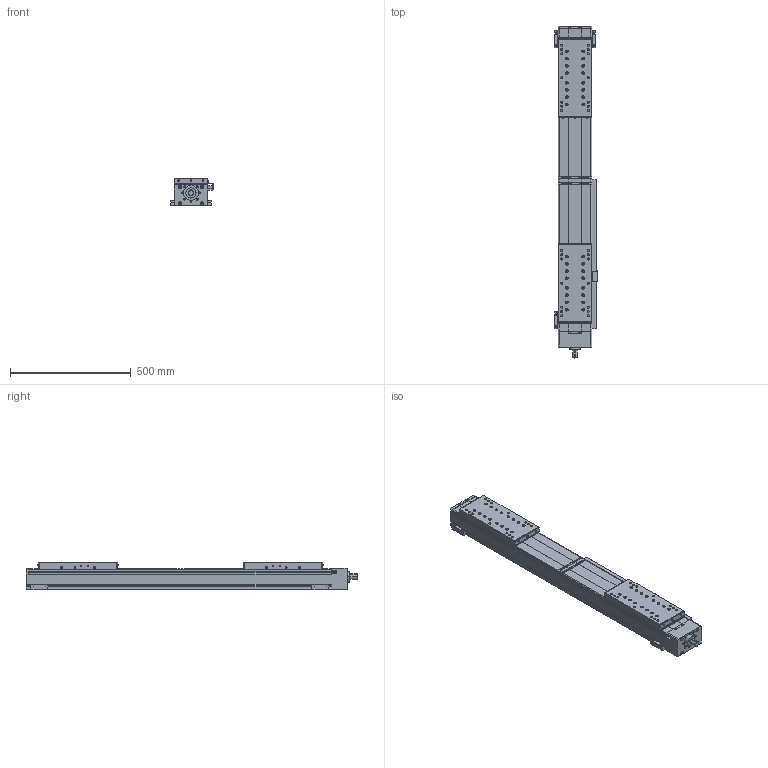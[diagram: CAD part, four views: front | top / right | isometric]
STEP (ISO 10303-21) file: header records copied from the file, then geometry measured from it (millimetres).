
FILE_DESCRIPTION(('Creo Elements/Direct Modeling STEP Export'),'2;1');
FILE_NAME('B140-C-SSS-RL-320-EN.stp','2025-01-14T15:01:23',(''),(''),'Creo Elements/Direct Modeling STEP processor for AP214 (Solid Model)','Creo Elements/Direct Modeling 20.1D 10-Oct-2020 (C) Parametric Technology GmbH','');
FILE_SCHEMA(('AUTOMOTIVE_DESIGN { 1 0 10303 214 1 1 1 1 }'));
Products named in the file (21): B140-C-SSS-GRUNDKOERPER-BLAU.PRT; B140-C-S-GRUNDKOERPER.ASM; BETA-S-GRUNDKOERPER.ASM; B140-C-SSS-SCHLITTEN-320.PRT; B140-ABSTREIFER-BUERSTE-B_10590.PRT; M4X8_ISO7380-1_10252.PRT.58; B140-ABSTREIFER-BUERSTE-BLAU.ASM; B140-ABSTREIFER.ASM.188; B140-C-S-SCHLITTEN.ASM; BETA-S-SCHLITTEN.ASM; EN-SCHALTFAHNE-10407.PRT; M4X6_ISO7380-1_10251.PRT.103; EN-SCHALTFAHNE-10407.ASM; EN-LEISTE.PRT; EN-SCHALTER.PRT.51; INDUKTIVE-ENDSCHALTER.ASM; BETA-ENDSCHALTER.ASM; BL2_10553.PRT; BL2-PAAR_10553.ASM.48; BETA-BEFESTIGUNGSELEMENTE.ASM; B140-C-SSS-RL-320-EN-Leiste-Seite-C
Assembly tree (29 placements, depth 6):
  B140-C-SSS-RL-320-EN-Leiste-Seite-C
    BETA-BEFESTIGUNGSELEMENTE.ASM
      BL2-PAAR_10553.ASM.48  x2
        BL2_10553.PRT
    BETA-ENDSCHALTER.ASM
      INDUKTIVE-ENDSCHALTER.ASM
        EN-SCHALTER.PRT.51  x3
        EN-LEISTE.PRT
      EN-SCHALTFAHNE-10407.ASM
        M4X6_ISO7380-1_10251.PRT.103  x2
        EN-SCHALTFAHNE-10407.PRT
    BETA-S-SCHLITTEN.ASM
      B140-C-S-SCHLITTEN.ASM  x2
        B140-ABSTREIFER.ASM.188
          B140-ABSTREIFER-BUERSTE-BLAU.ASM
            M4X8_ISO7380-1_10252.PRT.58  x3
            B140-ABSTREIFER-BUERSTE-B_10590.PRT
        B140-C-SSS-SCHLITTEN-320.PRT
    BETA-S-GRUNDKOERPER.ASM
      B140-C-S-GRUNDKOERPER.ASM
        B140-C-SSS-GRUNDKOERPER-BLAU.PRT
Bounding box: 174.5 x 1375 x 112 mm (x, y, z)
Volume: 17838065.4 mm3; surface area: 1192534.1 mm2
Topology: 30 solids, 30 shells, 6026 faces, 16301 edges, 10705 vertices
Faces by surface type: plane 5058, cylinder 666, cone 246, torus 28, sphere 28
Entity records: 194264 total; most frequent: CARTESIAN_POINT 28799, ORIENTED_EDGE 28628, DIRECTION 24868, EDGE_CURVE 14314, VECTOR 13456, LINE 13456, VERTEX_POINT 9481, AXIS2_PLACEMENT_3D 5706
